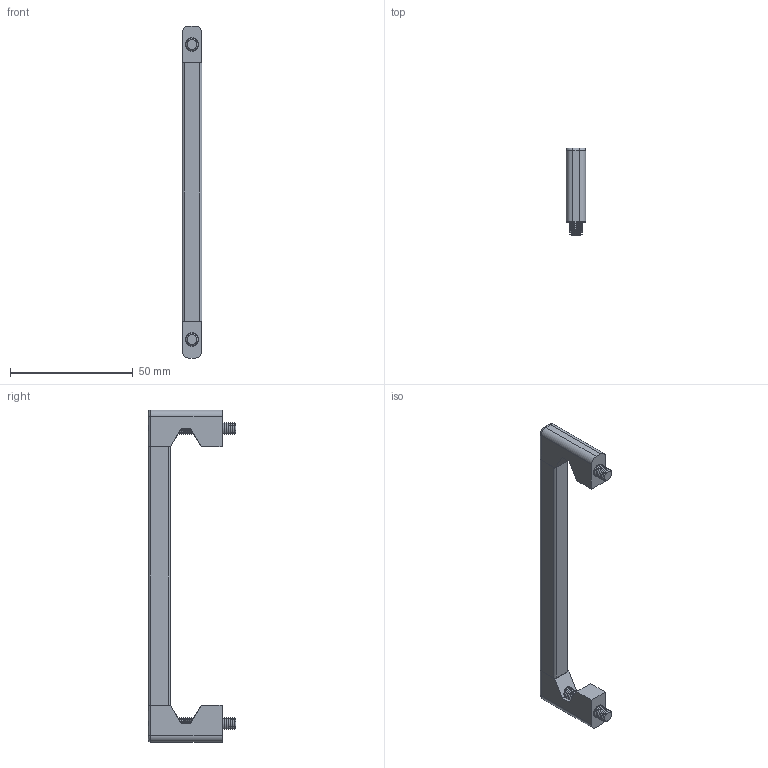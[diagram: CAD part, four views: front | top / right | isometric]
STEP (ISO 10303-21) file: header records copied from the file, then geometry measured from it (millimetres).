
FILE_DESCRIPTION (( 'STEP AP203' ), '1' );
FILE_NAME ('79350.W0320-1.step', '2018-04-28T14:54:14', ( '' ), ( '' ), 'SwSTEP 2.0', 'SolidWorks 2017', '' );
FILE_SCHEMA (( 'CONFIG_CONTROL_DESIGN' ));
Length unit declared in the file: millimetre
Products named in the file (4): Part2; Part3_79350.W0320-1; 79350.W0320-1; SHCS_1_M5x45
Assembly tree (5 placements, depth 2):
  79350.W0320-1
    Part3_79350.W0320-1
    Part2  x2
    SHCS_1_M5x45  x2
Bounding box: 8 x 35.5 x 135 mm (x, y, z)
Volume: 12653.4 mm3; surface area: 10214.3 mm2
Topology: 5 solids, 5 shells, 388 faces, 842 edges, 462 vertices
Faces by surface type: cone 264, plane 76, cylinder 44, torus 4
Entity records: 5931 total; most frequent: DIRECTION 1047, CARTESIAN_POINT 931, ORIENTED_EDGE 886, EDGE_CURVE 443, AXIS2_PLACEMENT_3D 399, VECTOR 249, LINE 249, VERTEX_POINT 247
